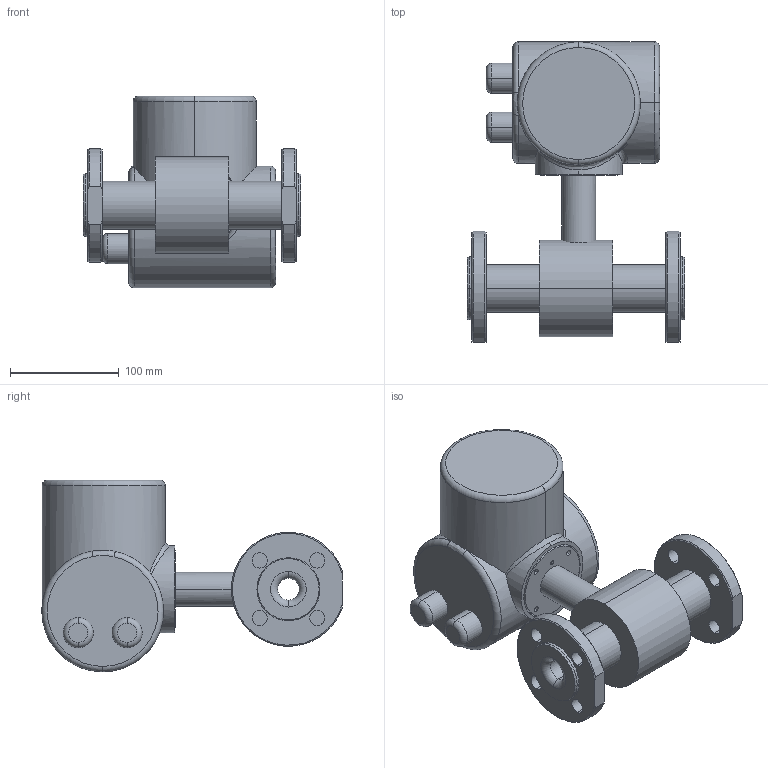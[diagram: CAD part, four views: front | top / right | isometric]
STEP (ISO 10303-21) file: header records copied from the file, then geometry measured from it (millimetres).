
FILE_DESCRIPTION (( 'STEP AP203' ), '1' );
FILE_NAME ('Ðàñõîäîìåð-ñ÷åò÷èê ýëåêòðîìàãíèòíûé ÏÈÒÅÐÔËÎÓ Ò3 - 20 Ex.STEP', '2022-06-24T08:18:30', ( '' ), ( '' ), 'SwSTEP 2.0', 'SolidWorks 2016', '' );
FILE_SCHEMA (( 'CONFIG_CONTROL_DESIGN' ));
Length unit declared in the file: millimetre
Products named in the file (1): Ðàñõîäîìåð-ñ÷åò÷èê ýëåêòðîìàãíèòíûé ÏÈÒÅÐÔËÎÓ Ò3 - 20 Ex
Bounding box: 200.6 x 276.5 x 176.4 mm (x, y, z)
Volume: 2888754.6 mm3; surface area: 225920.3 mm2
Topology: 5 solids, 5 shells, 225 faces, 546 edges, 342 vertices
Faces by surface type: cylinder 98, cone 64, plane 44, torus 14, bspline 4, sphere 1
Entity records: 9330 total; most frequent: CARTESIAN_POINT 3888, DIRECTION 1177, ORIENTED_EDGE 1084, EDGE_CURVE 542, AXIS2_PLACEMENT_3D 503, VERTEX_POINT 342, CIRCLE 281, EDGE_LOOP 272
